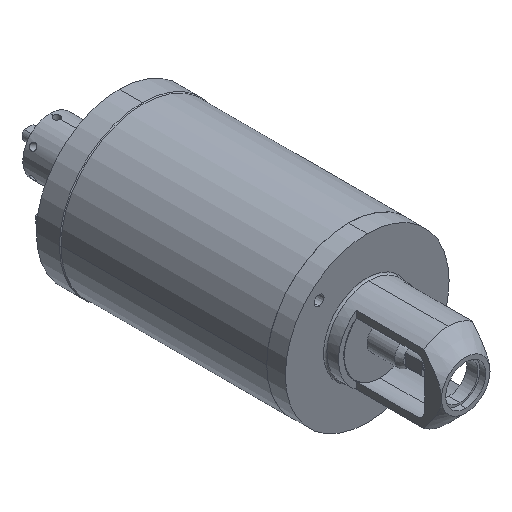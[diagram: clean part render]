
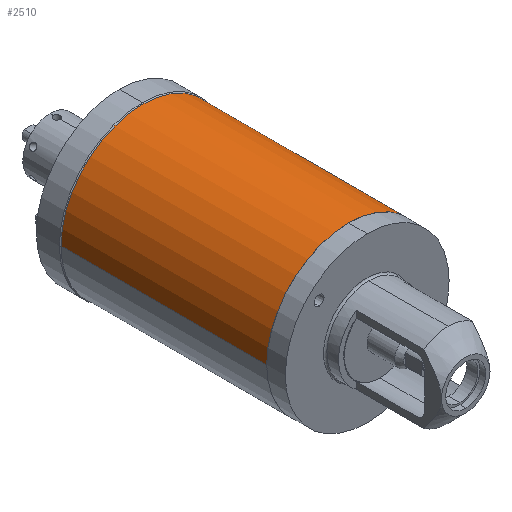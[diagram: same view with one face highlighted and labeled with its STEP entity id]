
A CAD part, isometric view. The second image highlights one B-rep face of the part: STEP entity #2510.
In plain terms, the highlighted cylindrical face has radius 78.308 mm (diameter 156.616 mm), a partial arc.
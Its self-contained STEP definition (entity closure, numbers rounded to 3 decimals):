
#283 = ORIENTED_EDGE ( 'NONE', *, *, #2887, .T. ) ;
#310 = ORIENTED_EDGE ( 'NONE', *, *, #3001, .T. ) ;
#314 = ORIENTED_EDGE ( 'NONE', *, *, #2891, .T. ) ;
#345 = ORIENTED_EDGE ( 'NONE', *, *, #2916, .T. ) ;
#370 = ORIENTED_EDGE ( 'NONE', *, *, #2999, .F. ) ;
#405 = CARTESIAN_POINT ( 'NONE',  ( 0., 308.296, 0. ) ) ;
#543 = DIRECTION ( 'NONE',  ( 1., 0., 0. ) ) ;
#562 = DIRECTION ( 'NONE',  ( 0., -1., 0. ) ) ;
#619 = DIRECTION ( 'NONE',  ( 0., 1., 0. ) ) ;
#636 = CARTESIAN_POINT ( 'NONE',  ( 0., 111.862, 0. ) ) ;
#644 = DIRECTION ( 'NONE',  ( 1., 0., 0. ) ) ;
#804 = EDGE_LOOP ( 'NONE', ( #310, #345, #314, #370, #283 ) ) ;
#1443 = CARTESIAN_POINT ( 'NONE',  ( 78.308, 111.862, 0. ) ) ;
#1444 = DIRECTION ( 'NONE',  ( 0., -1., 0. ) ) ;
#1447 = CARTESIAN_POINT ( 'NONE',  ( 0., 308.296, 0. ) ) ;
#1448 = DIRECTION ( 'NONE',  ( 0., -1., 0. ) ) ;
#1449 = DIRECTION ( 'NONE',  ( 1., 0., 0. ) ) ;
#1597 = CARTESIAN_POINT ( 'NONE',  ( 78.308, 308.296, 0. ) ) ;
#1601 = CARTESIAN_POINT ( 'NONE',  ( -78.308, 111.862, 0. ) ) ;
#1610 = CARTESIAN_POINT ( 'NONE',  ( -78.308, 308.296, 0. ) ) ;
#1646 = CARTESIAN_POINT ( 'NONE',  ( 0., 308.296, 78.308 ) ) ;
#1650 = CARTESIAN_POINT ( 'NONE',  ( 78.308, 111.862, 0. ) ) ;
#2057 = DIRECTION ( 'NONE',  ( 1., 0., 0. ) ) ;
#2079 = CARTESIAN_POINT ( 'NONE',  ( 0., 111.862, 0. ) ) ;
#2093 = DIRECTION ( 'NONE',  ( 0., -1., 0. ) ) ;
#2369 = AXIS2_PLACEMENT_3D ( 'NONE', #1447, #1448, #1449 ) ;
#2510 = ADVANCED_FACE ( 'NONE', ( #5485 ), #5486, .T. ) ;
#2590 = AXIS2_PLACEMENT_3D ( 'NONE', #636, #619, #644 ) ;
#2619 = AXIS2_PLACEMENT_3D ( 'NONE', #405, #562, #543 ) ;
#2681 = AXIS2_PLACEMENT_3D ( 'NONE', #2079, #2093, #2057 ) ;
#2887 = EDGE_CURVE ( 'NONE', #3114, #3163, #5681, .T. ) ;
#2891 = EDGE_CURVE ( 'NONE', #3118, #3167, #5685, .T. ) ;
#2916 = EDGE_CURVE ( 'NONE', #3127, #3118, #5714, .T. ) ;
#2999 = EDGE_CURVE ( 'NONE', #3114, #3167, #5820, .T. ) ;
#3001 = EDGE_CURVE ( 'NONE', #3163, #3127, #5825, .T. ) ;
#3114 = VERTEX_POINT ( 'NONE', #1597 ) ;
#3118 = VERTEX_POINT ( 'NONE', #1601 ) ;
#3127 = VERTEX_POINT ( 'NONE', #1610 ) ;
#3163 = VERTEX_POINT ( 'NONE', #1646 ) ;
#3167 = VERTEX_POINT ( 'NONE', #1650 ) ;
#5206 = CARTESIAN_POINT ( 'NONE',  ( -78.308, 111.862, 0. ) ) ;
#5421 = DIRECTION ( 'NONE',  ( 0., -1., 0. ) ) ;
#5485 = FACE_OUTER_BOUND ( 'NONE', #804, .T. ) ;
#5486 = CYLINDRICAL_SURFACE ( 'NONE', #2681, 78.308 ) ;
#5681 = CIRCLE ( 'NONE', #2619, 78.308 ) ;
#5685 = CIRCLE ( 'NONE', #2590, 78.308 ) ;
#5714 = LINE ( 'NONE', #5206, #5715 ) ;
#5715 = VECTOR ( 'NONE', #5421, 1000. ) ;
#5820 = LINE ( 'NONE', #1443, #5822 ) ;
#5822 = VECTOR ( 'NONE', #1444, 1000. ) ;
#5825 = CIRCLE ( 'NONE', #2369, 78.308 ) ;
